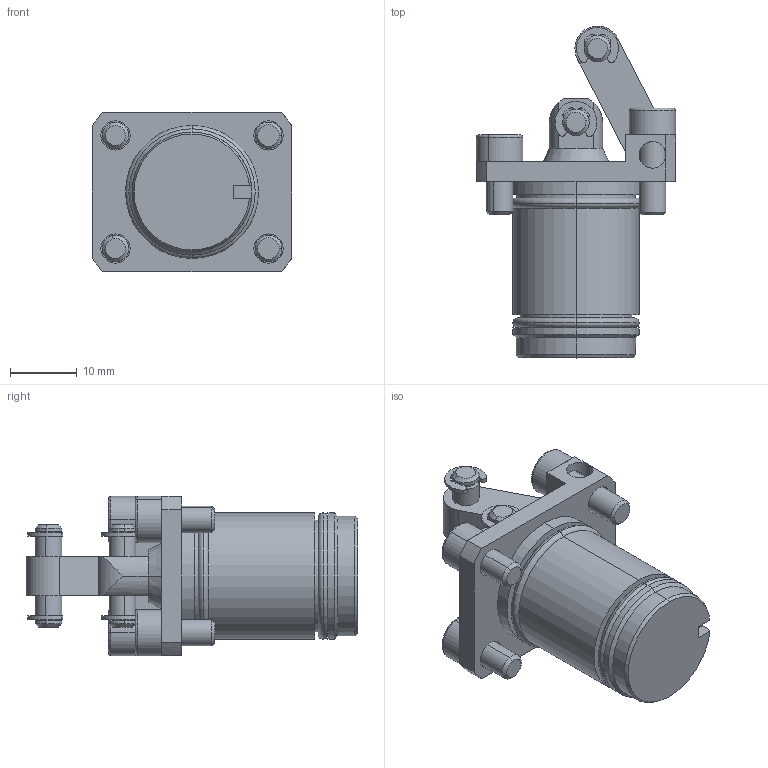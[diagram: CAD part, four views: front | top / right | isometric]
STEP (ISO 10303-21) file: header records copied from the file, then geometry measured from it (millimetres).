
FILE_DESCRIPTION (( 'STEP AP214' ), '1' );
FILE_NAME ('ITLC14-001.STEP', '2017-03-20T13:11:56', ( '' ), ( '' ), 'SwSTEP 2.0', 'SolidWorks 2014', '' );
FILE_SCHEMA (( 'AUTOMOTIVE_DESIGN' ));
Length unit declared in the file: millimetre
Products named in the file (10): sicherungsscheibe_din6799_2_3; din_912-m4x8-8_8; 1004003; din_912-m4x12-8_8; O-Ring-NBR_(16x1,5) 80; 2006001; O-Ring-NBR_3020006(17x1,5) 90; 1036002; 1014004; ITLC14-001
Assembly tree (15 placements, depth 2):
  ITLC14-001
    1036002
    1014004
    2006001
    O-Ring-NBR_3020006(17x1,5) 90
    O-Ring-NBR_(16x1,5) 80
    1004003  x2
    din_912-m4x12-8_8  x2
    sicherungsscheibe_din6799_2_3  x4
    din_912-m4x8-8_8  x2
Bounding box: 30 x 49.89 x 24 mm (x, y, z)
Volume: 12165 mm3; surface area: 9186.1 mm2
Topology: 15 solids, 15 shells, 327 faces, 809 edges, 516 vertices
Faces by surface type: cylinder 162, plane 114, cone 35, torus 16
Entity records: 6560 total; most frequent: CARTESIAN_POINT 1356, DIRECTION 1056, ORIENTED_EDGE 934, EDGE_CURVE 467, AXIS2_PLACEMENT_3D 420, VERTEX_POINT 298, EDGE_LOOP 223, LINE 216
